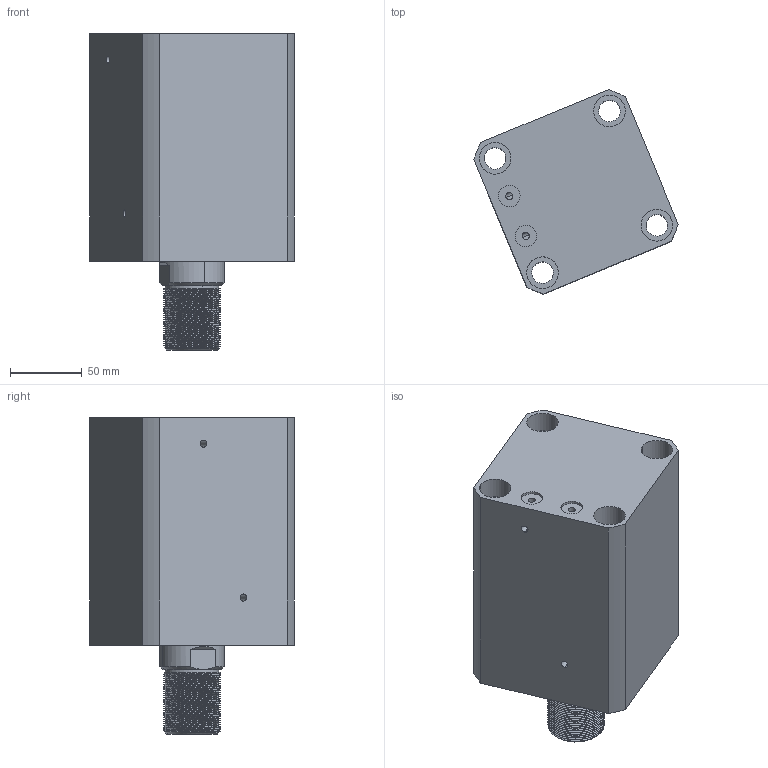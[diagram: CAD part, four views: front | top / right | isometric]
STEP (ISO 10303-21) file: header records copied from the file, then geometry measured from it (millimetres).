
FILE_DESCRIPTION (( 'STEP AP214' ), '1' );
FILE_NAME ('chtb-sdmb80x80w_asm.STEP', '2018-05-26T02:18:33', ( 'Windows' ), ( 'Microsoft' ), 'SwSTEP 2.0', 'SolidWorks 2015', '' );
FILE_SCHEMA (( 'AUTOMOTIVE_DESIGN' ));
Length unit declared in the file: millimetre
Products named in the file (4): CHTB-SDMB80X80NBT; CHTB-SD80X80WHSG; CHTB-SD80QG; chtb-sdmb80x80w_asm
Assembly tree (3 placements, depth 2):
  chtb-sdmb80x80w_asm
    CHTB-SD80QG
    CHTB-SD80X80WHSG
    CHTB-SDMB80X80NBT
Bounding box: 142.06 x 142.06 x 220 mm (x, y, z)
Volume: 1675528.8 mm3; surface area: 238899.6 mm2
Topology: 3 solids, 3 shells, 251 faces, 695 edges, 466 vertices
Faces by surface type: cylinder 163, plane 38, torus 18, bspline 16, cone 16
Entity records: 20297 total; most frequent: CARTESIAN_POINT 14321, ORIENTED_EDGE 1382, DIRECTION 1068, EDGE_CURVE 691, VERTEX_POINT 466, AXIS2_PLACEMENT_3D 433, EDGE_LOOP 289, ADVANCED_FACE 251
